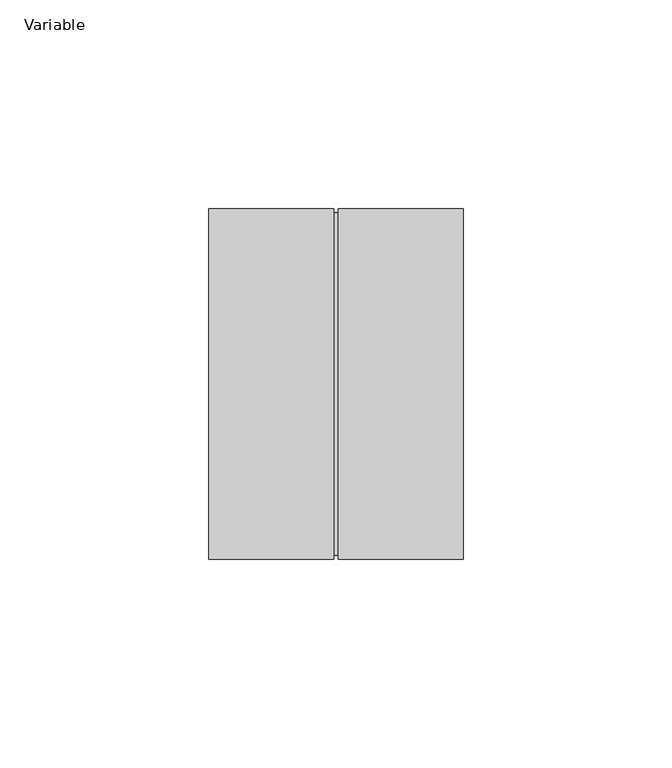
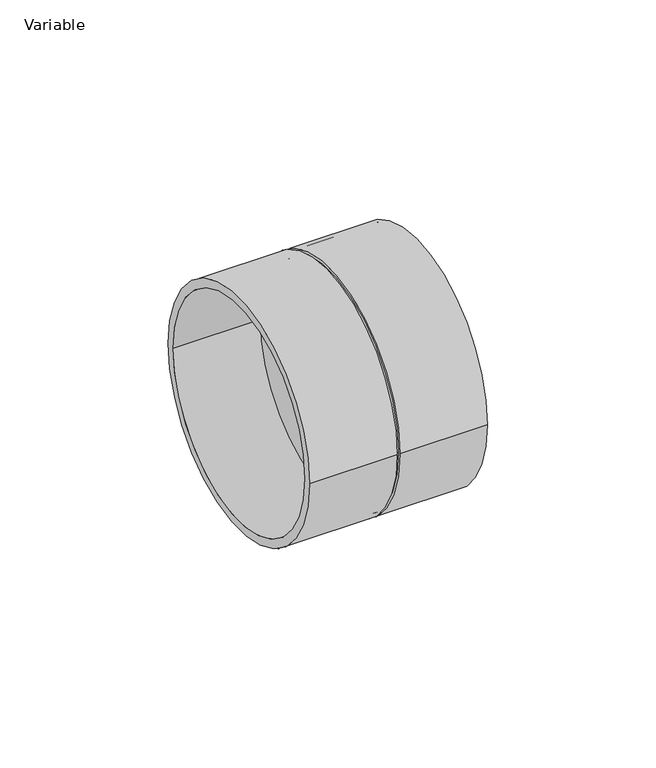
"""IFC4 building model written with IfcOpenShell, lengths in millimetres: pipe fitting geometry, AliaxisFR_Friaphon_RepairCoupling_FR : Variable."""

from ifc_helpers import new_model, si_unit, point, frame, origin, origin_2d, place, context, project, spatial, circle_curve, trimmed, segment, composite_curve, outline, extrude, source, transform, mapped, element, save


def variable_75d3f81a(model_context):
    return source(origin(), model_context, "Body", "SweptSolid", [
        extrude(outline(composite_curve([segment(trimmed(circle_curve(origin_2d(), 42.0), [point((-42.0, 0.0))], [point((42.0, 0.0))], False, "CARTESIAN"), True, "CONTINUOUS"), segment(trimmed(circle_curve(origin_2d(), 42.0), [point((42.0, 0.0))], [point((-42.0, 0.0))], False, "CARTESIAN"), True, "CONTINUOUS")], self_intersect=False), holes=[composite_curve([segment(trimmed(circle_curve(origin_2d(), 41.0), [point((-41.0, 0.0))], [point((41.0, 0.0))], True, "CARTESIAN"), True, "CONTINUOUS"), segment(trimmed(circle_curve(origin_2d(), 41.0), [point((41.0, 0.0))], [point((-41.0, 0.0))], True, "CARTESIAN"), True, "CONTINUOUS")], self_intersect=False)]), frame((31.0, 0.0, 0.0), z_axis=(1.0, 0.0, 0.0), x_axis=(0.0, 1.0, 0.0)), (0.0, 0.0, 1.0), 30.0),
        extrude(outline(composite_curve([segment(trimmed(circle_curve(origin_2d(), 41.0), [point((-41.0, 0.0))], [point((41.0, 0.0))], False, "CARTESIAN"), True, "CONTINUOUS"), segment(trimmed(circle_curve(origin_2d(), 41.0), [point((41.0, 0.0))], [point((-41.0, 0.0))], False, "CARTESIAN"), True, "CONTINUOUS")], self_intersect=False)), frame((30.0, 0.0, 0.0), z_axis=(1.0, 0.0, 0.0), x_axis=(0.0, 1.0, 0.0)), (0.0, 0.0, 1.0), 1.0),
        extrude(outline(composite_curve([segment(trimmed(circle_curve(origin_2d(), 42.0), [point((-42.0, 0.0))], [point((42.0, 0.0))], False, "CARTESIAN"), True, "CONTINUOUS"), segment(trimmed(circle_curve(origin_2d(), 42.0), [point((42.0, 0.0))], [point((-42.0, 0.0))], False, "CARTESIAN"), True, "CONTINUOUS")], self_intersect=False), holes=[composite_curve([segment(trimmed(circle_curve(origin_2d(), 39.0), [point((-39.0, 0.0))], [point((39.0, 0.0))], True, "CARTESIAN"), True, "CONTINUOUS"), segment(trimmed(circle_curve(origin_2d(), 39.0), [point((39.0, 0.0))], [point((-39.0, 0.0))], True, "CARTESIAN"), True, "CONTINUOUS")], self_intersect=False)]), frame((0.0, 0.0, 0.0), z_axis=(1.0, 0.0, 0.0), x_axis=(0.0, 1.0, 0.0)), (0.0, 0.0, 1.0), 30.0),
    ])


if __name__ == "__main__":
    model = new_model("IFC4")
    model_context = context("Model", 3, world=origin())
    ifc_project = project(units=[si_unit("LENGTHUNIT", "METRE", prefix="MILLI")], contexts=[model_context])
    site = spatial("IfcSite", under=ifc_project)
    building = spatial("IfcBuilding", under=site)
    placement = place(None, origin())
    variable_shape = variable_75d3f81a(model_context)
    element("IfcPipeFitting", 1, ObjectType="AliaxisFR_Friaphon_RepairCoupling_FR : Variable", at=placement, inside=building, context=model_context, shape_type="MappedRepresentation", body=[
        mapped(variable_shape, transform((0.0, 0.0, 0.0), x_axis=(1.0, 0.0, 0.0), y_axis=(0.0, 1.0, 0.0), z_axis=(0.0, 0.0, 1.0))),
    ])
    save(model, "model.ifc")
